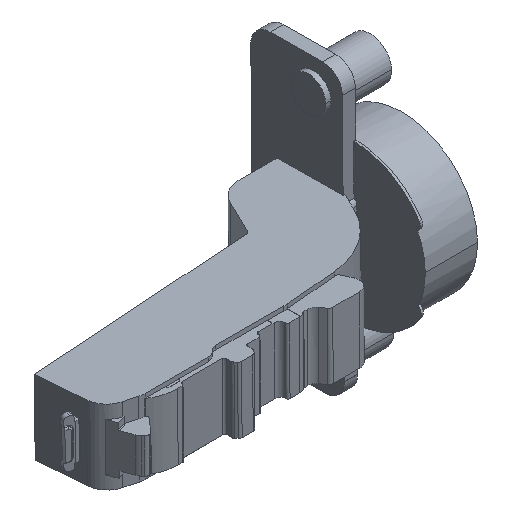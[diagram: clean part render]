
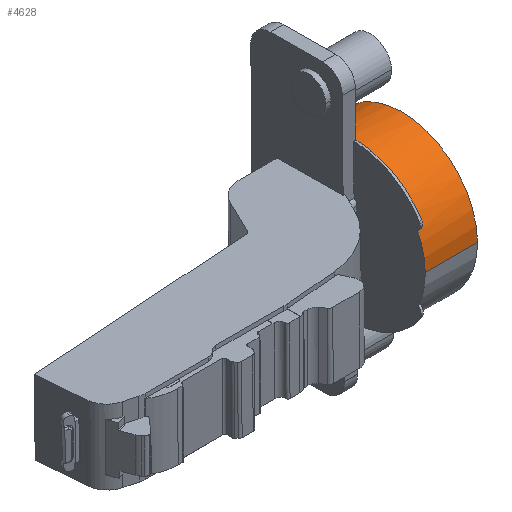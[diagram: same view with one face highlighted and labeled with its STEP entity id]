
A CAD part, isometric view. The second image highlights one B-rep face of the part: STEP entity #4628.
In plain terms, the highlighted cylindrical face has radius 17.4 mm (diameter 34.8 mm), a partial arc.
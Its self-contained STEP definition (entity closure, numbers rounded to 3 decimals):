
#26 = VERTEX_POINT ( 'NONE', #6885 ) ;
#44 = VECTOR ( 'NONE', #10438, 1000. ) ;
#229 = CARTESIAN_POINT ( 'NONE',  ( -0.453, 11.209, -10.502 ) ) ;
#521 = CARTESIAN_POINT ( 'NONE',  ( -0.485, 11.353, -10.214 ) ) ;
#856 = CARTESIAN_POINT ( 'NONE',  ( 11.5, 26.839, -18.149 ) ) ;
#1152 = DIRECTION ( 'NONE',  ( 1., 0., 0. ) ) ;
#1318 = CARTESIAN_POINT ( 'NONE',  ( -0.453, 11.209, -10.502 ) ) ;
#1373 = CARTESIAN_POINT ( 'NONE',  ( -0.5, 11.463, -10.003 ) ) ;
#1394 = ORIENTED_EDGE ( 'NONE', *, *, #4302, .T. ) ;
#1480 = CARTESIAN_POINT ( 'NONE',  ( 0.3, 11.209, -10.502 ) ) ;
#1585 = LINE ( 'NONE', #1480, #4466 ) ;
#1596 = CARTESIAN_POINT ( 'NONE',  ( -0.5, 26.839, -18.149 ) ) ;
#1746 = DIRECTION ( 'NONE',  ( 0., -1., 0. ) ) ;
#2047 = ORIENTED_EDGE ( 'NONE', *, *, #6734, .T. ) ;
#2146 = CARTESIAN_POINT ( 'NONE',  ( 11.5, 44.238, -18.312 ) ) ;
#2267 = CARTESIAN_POINT ( 'NONE',  ( -0.485, 11.352, -10.217 ) ) ;
#2469 = B_SPLINE_CURVE_WITH_KNOTS ( 'NONE', 3,
 ( #1318, #3685, #6265, #6045, #3847, #5415, #6957, #2267, #521, #5468, #1373, #9274 ),
 .UNSPECIFIED., .F., .F.,
 ( 4, 2, 1, 1, 2, 2, 4 ),
 ( 0., 0.25, 0.375, 0.438, 0.469, 0.5, 1. ),
 .UNSPECIFIED. ) ;
#2488 = DIRECTION ( 'NONE',  ( 0., -1., 0. ) ) ;
#2660 = FACE_OUTER_BOUND ( 'NONE', #4066, .T. ) ;
#2766 = CYLINDRICAL_SURFACE ( 'NONE', #3944, 17.4 ) ;
#2962 = ORIENTED_EDGE ( 'NONE', *, *, #8215, .T. ) ;
#3274 = DIRECTION ( 'NONE',  ( 1., 0., 0. ) ) ;
#3316 = ORIENTED_EDGE ( 'NONE', *, *, #4475, .F. ) ;
#3344 = EDGE_CURVE ( 'NONE', #4428, #5015, #5398, .T. ) ;
#3586 = CARTESIAN_POINT ( 'NONE',  ( 0., 11.209, -10.502 ) ) ;
#3685 = CARTESIAN_POINT ( 'NONE',  ( -0.46, 11.239, -10.442 ) ) ;
#3770 = VECTOR ( 'NONE', #4033, 1000. ) ;
#3847 = CARTESIAN_POINT ( 'NONE',  ( -0.479, 11.32, -10.279 ) ) ;
#3944 = AXIS2_PLACEMENT_3D ( 'NONE', #5970, #6781, #4291 ) ;
#4033 = DIRECTION ( 'NONE',  ( -1., 0., 0. ) ) ;
#4066 = EDGE_LOOP ( 'NONE', ( #9710, #9316, #1394, #9885, #2047, #2962, #3316 ) ) ;
#4156 = CIRCLE ( 'NONE', #9381, 17.4 ) ;
#4291 = DIRECTION ( 'NONE',  ( 0., -1., 0.009 ) ) ;
#4302 = EDGE_CURVE ( 'NONE', #5015, #5537, #6296, .T. ) ;
#4428 = VERTEX_POINT ( 'NONE', #2146 ) ;
#4466 = VECTOR ( 'NONE', #6319, 1000. ) ;
#4475 = EDGE_CURVE ( 'NONE', #8910, #26, #7988, .T. ) ;
#4628 = ADVANCED_FACE ( 'NONE', ( #2660 ), #2766, .T. ) ;
#4692 = VERTEX_POINT ( 'NONE', #5127 ) ;
#5015 = VERTEX_POINT ( 'NONE', #5957 ) ;
#5127 = CARTESIAN_POINT ( 'NONE',  ( -0.5, 11.51, -9.915 ) ) ;
#5188 = CARTESIAN_POINT ( 'NONE',  ( 0., 26.839, -18.149 ) ) ;
#5398 = LINE ( 'NONE', #9793, #44 ) ;
#5415 = CARTESIAN_POINT ( 'NONE',  ( -0.482, 11.339, -10.242 ) ) ;
#5468 = CARTESIAN_POINT ( 'NONE',  ( -0.495, 11.412, -10.1 ) ) ;
#5537 = VERTEX_POINT ( 'NONE', #3586 ) ;
#5957 = CARTESIAN_POINT ( 'NONE',  ( 0., 44.238, -18.312 ) ) ;
#5970 = CARTESIAN_POINT ( 'NONE',  ( 11.5, 26.839, -18.149 ) ) ;
#6045 = CARTESIAN_POINT ( 'NONE',  ( -0.475, 11.303, -10.313 ) ) ;
#6108 = AXIS2_PLACEMENT_3D ( 'NONE', #5188, #1152, #7580 ) ;
#6141 = CARTESIAN_POINT ( 'NONE',  ( 11.5, 9.44, -17.986 ) ) ;
#6217 = VERTEX_POINT ( 'NONE', #229 ) ;
#6265 = CARTESIAN_POINT ( 'NONE',  ( -0.467, 11.266, -10.387 ) ) ;
#6296 = CIRCLE ( 'NONE', #6108, 17.4 ) ;
#6319 = DIRECTION ( 'NONE',  ( 1., 0., 0. ) ) ;
#6352 = CIRCLE ( 'NONE', #7020, 17.4 ) ;
#6626 = CARTESIAN_POINT ( 'NONE',  ( 11.5, 9.44, -17.986 ) ) ;
#6734 = EDGE_CURVE ( 'NONE', #6217, #4692, #2469, .T. ) ;
#6781 = DIRECTION ( 'NONE',  ( -1., 0., 0. ) ) ;
#6793 = EDGE_CURVE ( 'NONE', #6217, #5537, #1585, .T. ) ;
#6885 = CARTESIAN_POINT ( 'NONE',  ( -0.5, 9.44, -17.986 ) ) ;
#6957 = CARTESIAN_POINT ( 'NONE',  ( -0.484, 11.347, -10.227 ) ) ;
#7020 = AXIS2_PLACEMENT_3D ( 'NONE', #856, #3274, #2488 ) ;
#7260 = EDGE_CURVE ( 'NONE', #4428, #8910, #6352, .T. ) ;
#7580 = DIRECTION ( 'NONE',  ( 0., -1., 0. ) ) ;
#7988 = LINE ( 'NONE', #6626, #3770 ) ;
#8015 = DIRECTION ( 'NONE',  ( 1., 0., 0. ) ) ;
#8215 = EDGE_CURVE ( 'NONE', #4692, #26, #4156, .T. ) ;
#8910 = VERTEX_POINT ( 'NONE', #6141 ) ;
#9274 = CARTESIAN_POINT ( 'NONE',  ( -0.5, 11.51, -9.915 ) ) ;
#9316 = ORIENTED_EDGE ( 'NONE', *, *, #3344, .T. ) ;
#9381 = AXIS2_PLACEMENT_3D ( 'NONE', #1596, #8015, #1746 ) ;
#9710 = ORIENTED_EDGE ( 'NONE', *, *, #7260, .F. ) ;
#9793 = CARTESIAN_POINT ( 'NONE',  ( 11.5, 44.238, -18.312 ) ) ;
#9885 = ORIENTED_EDGE ( 'NONE', *, *, #6793, .F. ) ;
#10438 = DIRECTION ( 'NONE',  ( -1., 0., 0. ) ) ;
